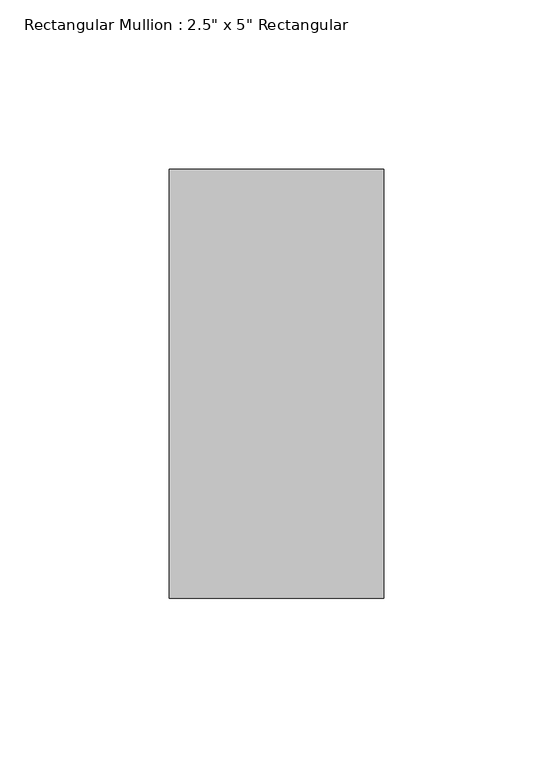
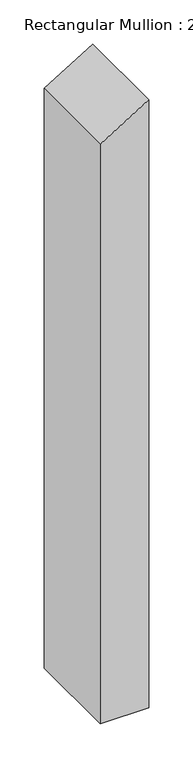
"""IFC4 building model written with IfcOpenShell, lengths in millimetres: member geometry."""

from ifc_helpers import new_model, si_unit, frame, origin, place, context, project, spatial, polyline, outline, extrude, source, transform, mapped, element, save


def member_54c8a699(model_context):
    return source(origin(), model_context, "Body", "SweptSolid", [
        extrude(outline(polyline([(0.0, 0.0), (-39.2451583, -63.5), (-842.4023837, -63.5), (-842.4023837, 0.0), (0.0, 0.0)])), frame((0.0, -63.5, 0.0), z_axis=(0.0, 1.0, 0.0), x_axis=(0.0, 0.0, 1.0)), (0.0, 0.0, 1.0), 127.0),
    ])


if __name__ == "__main__":
    model = new_model("IFC4")
    model_context = context("Model", 3, world=origin())
    ifc_project = project(units=[si_unit("LENGTHUNIT", "METRE", prefix="MILLI")], contexts=[model_context])
    site = spatial("IfcSite", under=ifc_project)
    building = spatial("IfcBuilding", under=site)
    placement = place(None, origin())
    member_shape = member_54c8a699(model_context)
    element("IfcMember", 1, ObjectType="Rectangular Mullion : 2.5\" x 5\" Rectangular", at=placement, inside=building, context=model_context, shape_type="MappedRepresentation", body=[
        mapped(member_shape, transform((0.0, 0.0, 0.0), x_axis=(1.0, 0.0, 0.0), y_axis=(0.0, 1.0, 0.0), z_axis=(0.0, 0.0, 1.0))),
    ])
    save(model, "model.ifc")
